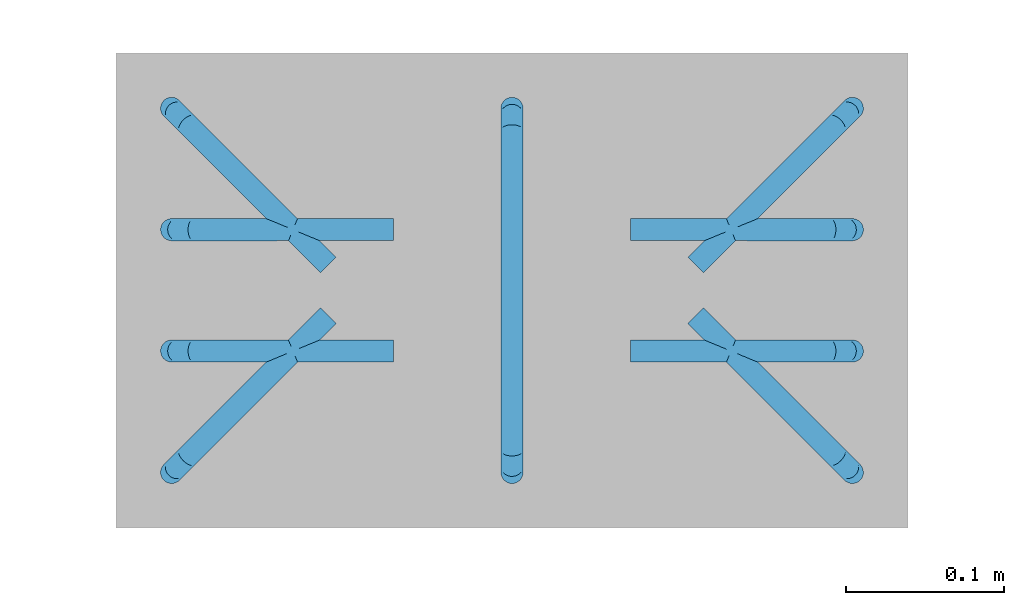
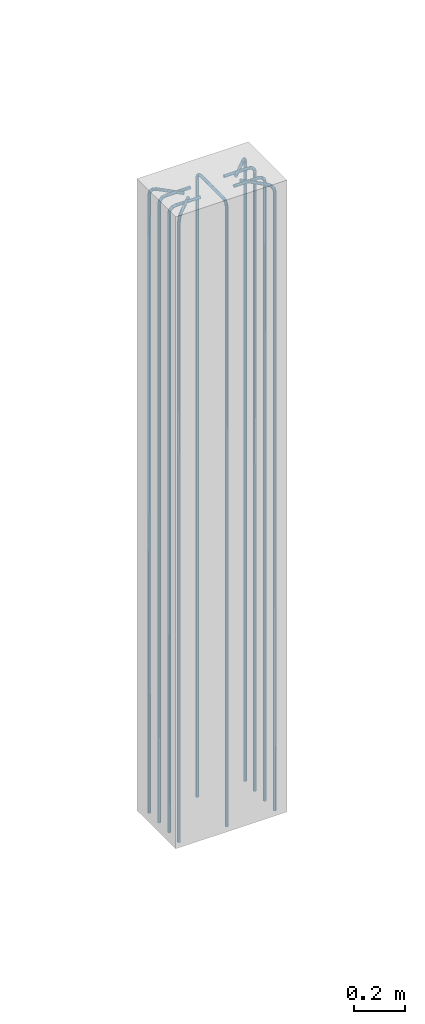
# One storey, part 5 of 11: 1 reinforcing bar.
"""IFC2X3 building model written with IfcOpenShell, lengths in metres."""

from ifc_helpers import new_model, entity, si_unit, direction, frame, origin, place, context, subcontext, project, spatial, shape, source, transform, mapped, element, save


model = new_model("IFC2X3")

# Units and contexts
model_context = context("Model", 3, precision=0.0, world=origin(), true_north=direction((0.0, 1.0)))
plan_context = context("Plan", 3, precision=0.0, world=origin(), true_north=direction((0.0, 1.0)))
body_context = subcontext(model_context, "Body", "Model", "MODEL_VIEW", scale=1.0)
ifc_project = project(units=[si_unit("LENGTHUNIT", "METRE"), si_unit("AREAUNIT", "SQUARE_METRE"), si_unit("VOLUMEUNIT", "CUBIC_METRE"), si_unit("PLANEANGLEUNIT", "RADIAN"), si_unit("THERMODYNAMICTEMPERATUREUNIT", "DEGREE_CELSIUS"), si_unit("FORCEUNIT", "NEWTON"), si_unit("MASSUNIT", "GRAM", prefix="KILO")], contexts=[model_context, plan_context])

# Site, building, storey
placement = place(None, origin())
site = spatial("IfcSite", under=ifc_project, at=placement, Name="Default Site", CompositionType="ELEMENT")
building = spatial("IfcBuilding", under=site, at=placement, Name="Default Building", CompositionType="ELEMENT")
storey_placement = place(placement, frame((0.0, 0.0, 3.0), z_axis=(1.0, 0.0, 0.0), x_axis=(0.0, 0.0, 1.0)))
storey = spatial("IfcBuildingStorey", under=building, at=storey_placement, Name="Piano 1", CompositionType="ELEMENT", Elevation=3.0)

# Reinforcing bar
shared_shape_1 = source(origin(), body_context, None, "AdvancedSweptSolid", [
    entity("IfcSweptDiskSolid", entity("IfcCompositeCurve", [entity("IfcCompositeCurveSegment", "CONTINUOUS", True, entity("IfcPolyline", [entity("IfcCartesianPoint", [0.0, 0.0, 0.0]), entity("IfcCartesianPoint", [0.0, 0.0, 2.937]), entity("IfcCartesianPoint", [0.002653, 0.002653, 2.951]), entity("IfcCartesianPoint", [0.009899, 0.009899, 2.961249]), entity("IfcCartesianPoint", [0.019799, 0.019799, 2.965]), entity("IfcCartesianPoint", [0.098995, 0.098995, 2.965])]))], False), 0.007, 0.0, 0.0),
])
shared_shape_2 = source(origin(), body_context, None, "MappedRepresentation", [mapped(shared_shape_1, transform((11.785, -0.115, 0.0)))])
shared_shape_3 = source(origin(), body_context, None, "AdvancedSweptSolid", [
    entity("IfcSweptDiskSolid", entity("IfcCompositeCurve", [entity("IfcCompositeCurveSegment", "CONTINUOUS", True, entity("IfcPolyline", [entity("IfcCartesianPoint", [0.0, 0.0, 0.0]), entity("IfcCartesianPoint", [0.0, 0.0, 2.937]), entity("IfcCartesianPoint", [-0.002653, 0.002653, 2.951]), entity("IfcCartesianPoint", [-0.009899, 0.009899, 2.961249]), entity("IfcCartesianPoint", [-0.019799, 0.019799, 2.965]), entity("IfcCartesianPoint", [-0.098995, 0.098995, 2.965])]))], False), 0.007, 0.0, 0.0),
])
shared_shape_4 = source(origin(), body_context, None, "MappedRepresentation", [mapped(shared_shape_3, transform((12.215, -0.115, 0.0)))])
shared_shape_5 = source(origin(), body_context, None, "AdvancedSweptSolid", [
    entity("IfcSweptDiskSolid", entity("IfcCompositeCurve", [entity("IfcCompositeCurveSegment", "CONTINUOUS", True, entity("IfcPolyline", [entity("IfcCartesianPoint", [0.0, 0.0, 0.0]), entity("IfcCartesianPoint", [0.0, 0.0, 2.937]), entity("IfcCartesianPoint", [-0.002653, -0.002653, 2.951]), entity("IfcCartesianPoint", [-0.009899, -0.009899, 2.961249]), entity("IfcCartesianPoint", [-0.019799, -0.019799, 2.965]), entity("IfcCartesianPoint", [-0.098995, -0.098995, 2.965])]))], False), 0.007, 0.0, 0.0),
])
shared_shape_6 = source(origin(), body_context, None, "MappedRepresentation", [mapped(shared_shape_5, transform((12.215, 0.115, 0.0)))])
shared_shape_7 = source(origin(), body_context, None, "AdvancedSweptSolid", [
    entity("IfcSweptDiskSolid", entity("IfcCompositeCurve", [entity("IfcCompositeCurveSegment", "CONTINUOUS", True, entity("IfcPolyline", [entity("IfcCartesianPoint", [0.0, 0.0, 0.0]), entity("IfcCartesianPoint", [0.0, 0.0, 2.937]), entity("IfcCartesianPoint", [0.002653, -0.002653, 2.951]), entity("IfcCartesianPoint", [0.009899, -0.009899, 2.961249]), entity("IfcCartesianPoint", [0.019799, -0.019799, 2.965]), entity("IfcCartesianPoint", [0.098995, -0.098995, 2.965])]))], False), 0.007, 0.0, 0.0),
])
shared_shape_8 = source(origin(), body_context, None, "MappedRepresentation", [mapped(shared_shape_7, transform((11.785, 0.115, 0.0)))])
shared_shape_9 = source(origin(), body_context, None, "AdvancedSweptSolid", [
    entity("IfcSweptDiskSolid", entity("IfcCompositeCurve", [entity("IfcCompositeCurveSegment", "CONTINUOUS", True, entity("IfcPolyline", [entity("IfcCartesianPoint", [0.0, 0.0, 0.0]), entity("IfcCartesianPoint", [0.0, 0.0, 2.937]), entity("IfcCartesianPoint", [0.0, 0.003751, 2.951]), entity("IfcCartesianPoint", [0.0, 0.014, 2.961249]), entity("IfcCartesianPoint", [0.0, 0.028, 2.965]), entity("IfcCartesianPoint", [0.0, 0.14, 2.965])]))], False), 0.007, 0.0, 0.0),
])
shared_shape_10 = source(origin(), body_context, None, "MappedRepresentation", [mapped(shared_shape_9, transform((12.0, -0.115, 0.0)))])
shared_shape_11 = source(origin(), body_context, None, "AdvancedSweptSolid", [
    entity("IfcSweptDiskSolid", entity("IfcCompositeCurve", [entity("IfcCompositeCurveSegment", "CONTINUOUS", True, entity("IfcPolyline", [entity("IfcCartesianPoint", [0.0, 0.0, 0.0]), entity("IfcCartesianPoint", [0.0, 0.0, 2.937]), entity("IfcCartesianPoint", [-0.003751, 0.0, 2.951]), entity("IfcCartesianPoint", [-0.014, 0.0, 2.961249]), entity("IfcCartesianPoint", [-0.028, 0.0, 2.965]), entity("IfcCartesianPoint", [-0.14, 0.0, 2.965])]))], False), 0.007, 0.0, 0.0),
])
shared_shape_12 = source(origin(), body_context, None, "MappedRepresentation", [mapped(shared_shape_11, transform((12.215, -0.038333, 0.0)))])
shared_shape_13 = source(origin(), body_context, None, "AdvancedSweptSolid", [
    entity("IfcSweptDiskSolid", entity("IfcCompositeCurve", [entity("IfcCompositeCurveSegment", "CONTINUOUS", True, entity("IfcPolyline", [entity("IfcCartesianPoint", [0.0, 0.0, 0.0]), entity("IfcCartesianPoint", [0.0, 0.0, 2.937]), entity("IfcCartesianPoint", [-0.003751, 0.0, 2.951]), entity("IfcCartesianPoint", [-0.014, 0.0, 2.961249]), entity("IfcCartesianPoint", [-0.028, 0.0, 2.965]), entity("IfcCartesianPoint", [-0.14, 0.0, 2.965])]))], False), 0.007, 0.0, 0.0),
])
shared_shape_14 = source(origin(), body_context, None, "MappedRepresentation", [mapped(shared_shape_13, transform((12.215, 0.038333, 0.0)))])
shared_shape_15 = source(origin(), body_context, None, "AdvancedSweptSolid", [
    entity("IfcSweptDiskSolid", entity("IfcCompositeCurve", [entity("IfcCompositeCurveSegment", "CONTINUOUS", True, entity("IfcPolyline", [entity("IfcCartesianPoint", [0.0, 0.0, 0.0]), entity("IfcCartesianPoint", [0.0, 0.0, 2.937]), entity("IfcCartesianPoint", [0.0, -0.003751, 2.951]), entity("IfcCartesianPoint", [0.0, -0.014, 2.961249]), entity("IfcCartesianPoint", [0.0, -0.028, 2.965]), entity("IfcCartesianPoint", [0.0, -0.14, 2.965])]))], False), 0.007, 0.0, 0.0),
])
shared_shape_16 = source(origin(), body_context, None, "MappedRepresentation", [mapped(shared_shape_15, transform((12.0, 0.115, 0.0)))])
shared_shape_17 = source(origin(), body_context, None, "AdvancedSweptSolid", [
    entity("IfcSweptDiskSolid", entity("IfcCompositeCurve", [entity("IfcCompositeCurveSegment", "CONTINUOUS", True, entity("IfcPolyline", [entity("IfcCartesianPoint", [0.0, 0.0, 0.0]), entity("IfcCartesianPoint", [0.0, 0.0, 2.937]), entity("IfcCartesianPoint", [0.003751, 0.0, 2.951]), entity("IfcCartesianPoint", [0.014, 0.0, 2.961249]), entity("IfcCartesianPoint", [0.028, 0.0, 2.965]), entity("IfcCartesianPoint", [0.14, 0.0, 2.965])]))], False), 0.007, 0.0, 0.0),
])
shared_shape_18 = source(origin(), body_context, None, "MappedRepresentation", [mapped(shared_shape_17, transform((11.785, 0.038333, 0.0)))])
shared_shape_19 = source(origin(), body_context, None, "AdvancedSweptSolid", [
    entity("IfcSweptDiskSolid", entity("IfcCompositeCurve", [entity("IfcCompositeCurveSegment", "CONTINUOUS", True, entity("IfcPolyline", [entity("IfcCartesianPoint", [0.0, 0.0, 0.0]), entity("IfcCartesianPoint", [0.0, 0.0, 2.937]), entity("IfcCartesianPoint", [0.003751, 0.0, 2.951]), entity("IfcCartesianPoint", [0.014, 0.0, 2.961249]), entity("IfcCartesianPoint", [0.028, 0.0, 2.965]), entity("IfcCartesianPoint", [0.14, 0.0, 2.965])]))], False), 0.007, 0.0, 0.0),
])
shared_shape_20 = source(origin(), body_context, None, "MappedRepresentation", [mapped(shared_shape_19, transform((11.785, -0.038333, 0.0)))])
element("IfcReinforcingBar", 1, at=placement, inside=storey, Name="Arm Principale; Pilastro:4 [Piano:1]", BarLength=31.05, BarRole="MAIN", BarSurface="TEXTURED", NominalDiameter=0.014, shapes=[
    shape(body_context, None, "MappedRepresentation", [mapped(shared_shape_2, transform((0.0, 0.0, 0.0))), mapped(shared_shape_4, transform((0.0, 0.0, 0.0))), mapped(shared_shape_6, transform((0.0, 0.0, 0.0))), mapped(shared_shape_8, transform((0.0, 0.0, 0.0))), mapped(shared_shape_10, transform((0.0, 0.0, 0.0))), mapped(shared_shape_12, transform((0.0, 0.0, 0.0))), mapped(shared_shape_14, transform((0.0, 0.0, 0.0))), mapped(shared_shape_16, transform((0.0, 0.0, 0.0))), mapped(shared_shape_18, transform((0.0, 0.0, 0.0))), mapped(shared_shape_20, transform((0.0, 0.0, 0.0)))]),
])

save(model, "model.ifc")
